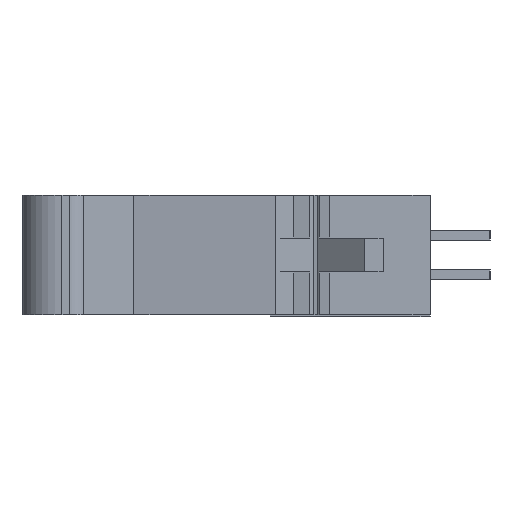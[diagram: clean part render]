
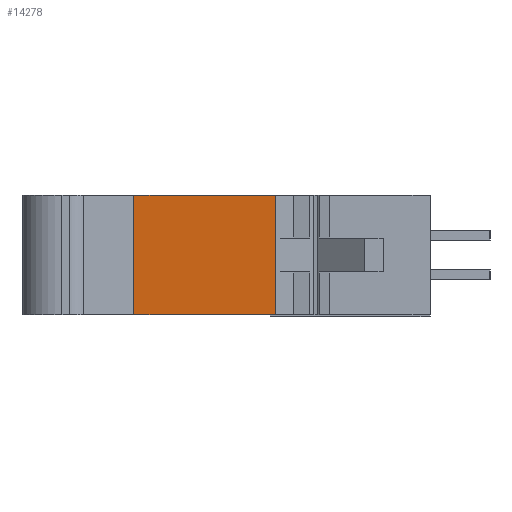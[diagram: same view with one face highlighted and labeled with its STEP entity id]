
A CAD part, left-side view. The second image highlights one B-rep face of the part: STEP entity #14278.
In plain terms, the highlighted planar face has unit normal (-0.992, 0.123, 0).
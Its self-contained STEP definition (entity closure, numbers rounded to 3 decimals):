
#714 = CARTESIAN_POINT ( 'NONE',  ( -18.052, 0.731, -11.52 ) ) ;
#954 = ORIENTED_EDGE ( 'NONE', *, *, #13450, .F. ) ;
#1788 = CARTESIAN_POINT ( 'NONE',  ( -18.052, 0.731, 3. ) ) ;
#3096 = VERTEX_POINT ( 'NONE', #30849 ) ;
#5132 = CARTESIAN_POINT ( 'NONE',  ( -18.052, 0.731, 3. ) ) ;
#5780 = EDGE_CURVE ( 'NONE', #28884, #30730, #12615, .T. ) ;
#6828 = ORIENTED_EDGE ( 'NONE', *, *, #5780, .F. ) ;
#7344 = VECTOR ( 'NONE', #27450, 1000. ) ;
#9019 = CARTESIAN_POINT ( 'NONE',  ( -17.172, 7.831, -3. ) ) ;
#10475 = LINE ( 'NONE', #33470, #36775 ) ;
#12038 = EDGE_CURVE ( 'NONE', #14534, #3096, #15794, .T. ) ;
#12615 = LINE ( 'NONE', #13365, #26463 ) ;
#13127 = CARTESIAN_POINT ( 'NONE',  ( -17.172, 7.831, -11.52 ) ) ;
#13365 = CARTESIAN_POINT ( 'NONE',  ( -18.052, 0.731, 3. ) ) ;
#13450 = EDGE_CURVE ( 'NONE', #30730, #14534, #10475, .T. ) ;
#13558 = LINE ( 'NONE', #1788, #7344 ) ;
#14278 = ADVANCED_FACE ( 'NONE', ( #16090 ), #36027, .T. ) ;
#14534 = VERTEX_POINT ( 'NONE', #9019 ) ;
#15705 = DIRECTION ( 'NONE',  ( 0., 0., 1. ) ) ;
#15794 = LINE ( 'NONE', #13127, #35798 ) ;
#16090 = FACE_OUTER_BOUND ( 'NONE', #29438, .T. ) ;
#18968 = EDGE_CURVE ( 'NONE', #3096, #28884, #13558, .T. ) ;
#22832 = AXIS2_PLACEMENT_3D ( 'NONE', #714, #30154, #15705 ) ;
#24215 = DIRECTION ( 'NONE',  ( 0., 0., -1. ) ) ;
#26463 = VECTOR ( 'NONE', #24215, 1000. ) ;
#26738 = ORIENTED_EDGE ( 'NONE', *, *, #18968, .F. ) ;
#27450 = DIRECTION ( 'NONE',  ( -0.123, -0.992, 0. ) ) ;
#28623 = ORIENTED_EDGE ( 'NONE', *, *, #12038, .F. ) ;
#28884 = VERTEX_POINT ( 'NONE', #5132 ) ;
#29438 = EDGE_LOOP ( 'NONE', ( #954, #6828, #26738, #28623 ) ) ;
#29693 = CARTESIAN_POINT ( 'NONE',  ( -18.052, 0.731, -3. ) ) ;
#30154 = DIRECTION ( 'NONE',  ( -0.992, 0.123, 0. ) ) ;
#30730 = VERTEX_POINT ( 'NONE', #29693 ) ;
#30849 = CARTESIAN_POINT ( 'NONE',  ( -17.172, 7.831, 3. ) ) ;
#30994 = DIRECTION ( 'NONE',  ( 0., 0., 1. ) ) ;
#33470 = CARTESIAN_POINT ( 'NONE',  ( -18.052, 0.731, -3. ) ) ;
#35798 = VECTOR ( 'NONE', #30994, 1000. ) ;
#35937 = DIRECTION ( 'NONE',  ( 0.123, 0.992, 0. ) ) ;
#36027 = PLANE ( 'NONE',  #22832 ) ;
#36775 = VECTOR ( 'NONE', #35937, 1000. ) ;
